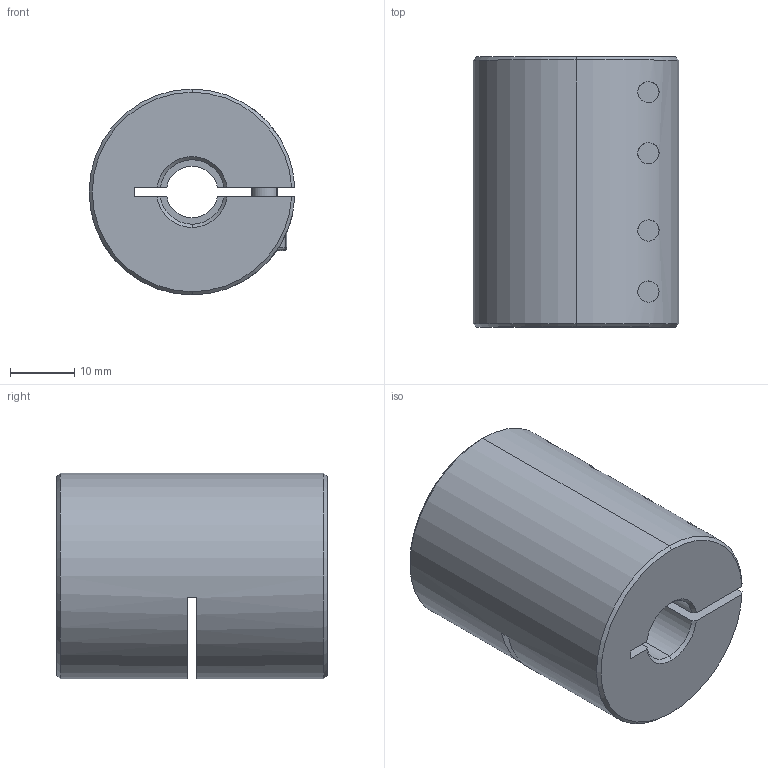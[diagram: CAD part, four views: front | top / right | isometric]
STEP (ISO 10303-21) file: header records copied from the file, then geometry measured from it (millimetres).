
FILE_DESCRIPTION (( 'STEP AP203' ), '1' );
FILE_NAME ('LL-B-D32L42-8-10.STEP', '2021-11-05T07:43:31', ( '' ), ( '' ), 'SwSTEP 2.0', 'SolidWorks 2018', '' );
FILE_SCHEMA (( 'CONFIG_CONTROL_DESIGN' ));
Length unit declared in the file: millimetre
Products named in the file (1): LL-B-D32L42-8-10
Bounding box: 31.98 x 42 x 32 mm (x, y, z)
Volume: 28629.7 mm3; surface area: 10309.7 mm2
Topology: 1 solids, 1 shells, 193 faces, 492 edges, 309 vertices
Faces by surface type: plane 88, cylinder 77, cone 20, torus 8
Entity records: 6376 total; most frequent: CARTESIAN_POINT 1559, DIRECTION 1037, ORIENTED_EDGE 968, EDGE_CURVE 484, AXIS2_PLACEMENT_3D 403, VERTEX_POINT 309, LINE 231, VECTOR 231
